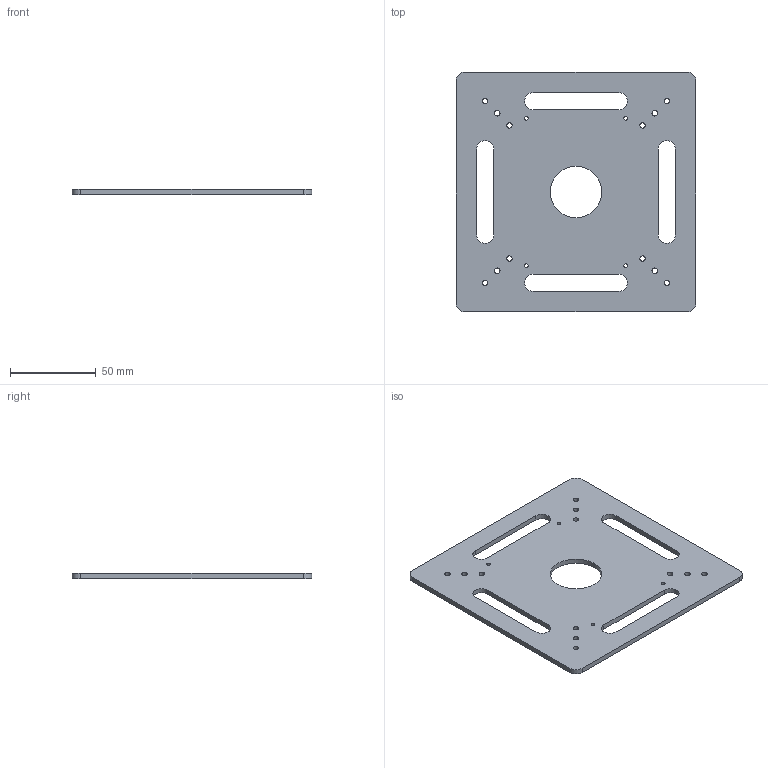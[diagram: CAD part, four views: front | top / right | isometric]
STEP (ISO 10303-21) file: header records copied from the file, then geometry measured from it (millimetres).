
FILE_DESCRIPTION (( 'STEP AP214' ), '1' );
FILE_NAME ('3-1扢掘啣.STEP', '2026-01-19T13:58:07', ( '' ), ( '' ), 'SwSTEP 2.0', 'SolidWorks 2024', '' );
FILE_SCHEMA (( 'AUTOMOTIVE_DESIGN' ));
Length unit declared in the file: millimetre
Products named in the file (1): 3-1设备板
Bounding box: 140 x 140 x 3 mm (x, y, z)
Volume: 49337.4 mm3; surface area: 36850.4 mm2
Topology: 1 solids, 1 shells, 62 faces, 180 edges, 120 vertices
Faces by surface type: cylinder 48, plane 14
Entity records: 2207 total; most frequent: DIRECTION 402, CARTESIAN_POINT 363, ORIENTED_EDGE 360, EDGE_CURVE 180, AXIS2_PLACEMENT_3D 159, VERTEX_POINT 120, EDGE_LOOP 104, CIRCLE 96
